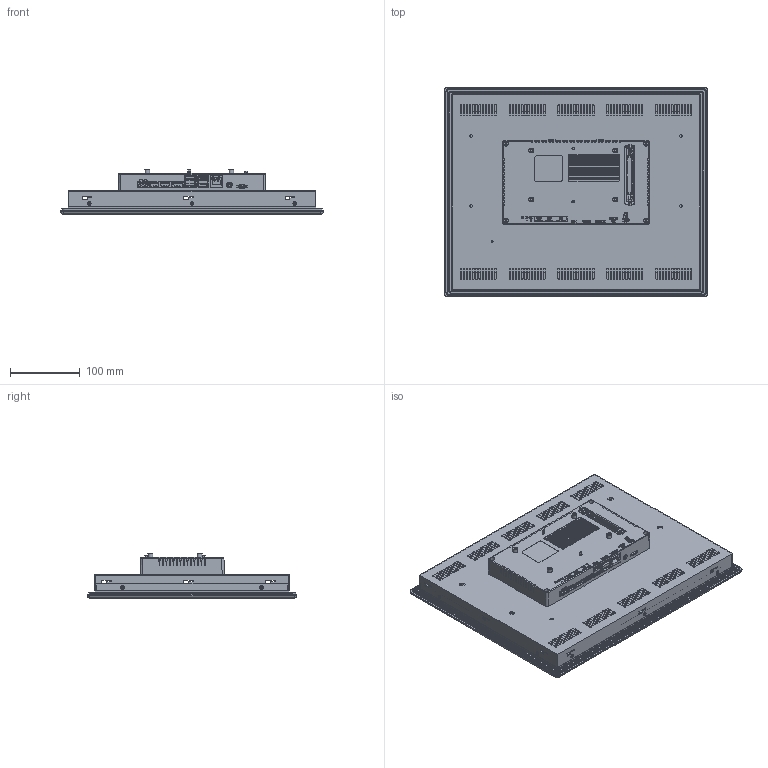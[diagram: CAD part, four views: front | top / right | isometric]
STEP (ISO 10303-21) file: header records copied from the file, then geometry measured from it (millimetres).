
FILE_DESCRIPTION (( 'STEP AP214' ), '1' );
FILE_NAME ('CPi-A150WR_rev1_forSTEP.STEP', '2023-06-29T10:16:50', ( '' ), ( '' ), 'SwSTEP 2.0', 'SolidWorks 2020', '' );
FILE_SCHEMA (( 'AUTOMOTIVE_DESIGN' ));
Length unit declared in the file: millimetre
Products named in the file (1): CPi-A150WR_rev1_forSTEP
Bounding box: 376 x 300 x 63.2 mm (x, y, z)
Surface area: 558422.8 mm2 (no closed solid volume)
Topology: 0 solids, 113 shells, 1496 faces, 7917 edges, 6266 vertices
Faces by surface type: plane 954, cylinder 422, bspline 79, cone 35, sphere 3, torus 3
Full cylindrical faces by diameter (mm): 1.922 x1, 2 x3, 2.6 x1, 3 x5, 3.4 x6, 3.6 x1, 4 x4, 4.9 x4, 8 x1
Entity records: 106621 total; most frequent: CARTESIAN_POINT 32678, ORIENTED_EDGE 10847, DIRECTION 10013, EDGE_CURVE 7833, VERTEX_POINT 6243, VECTOR 5547, LINE 5547, AXIS2_PLACEMENT_3D 2233
